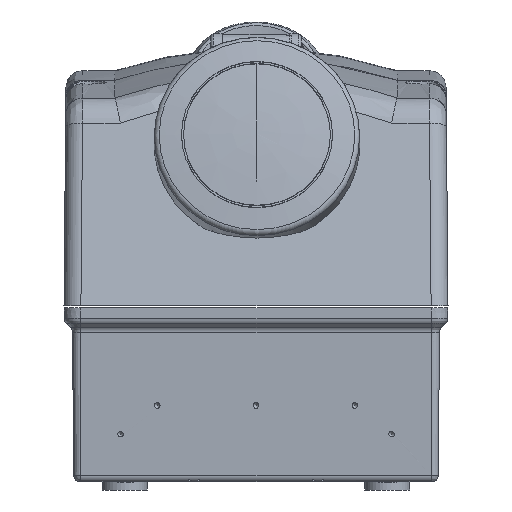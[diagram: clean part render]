
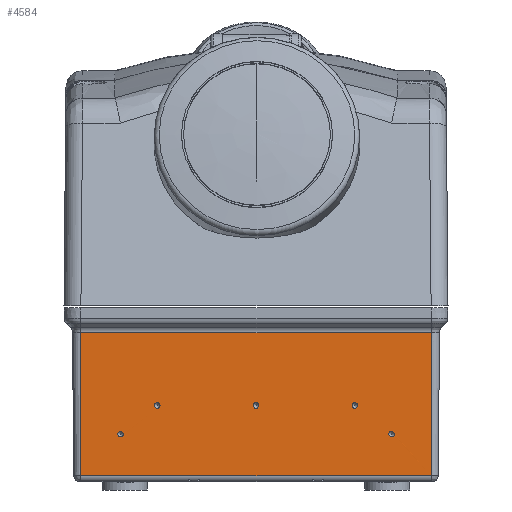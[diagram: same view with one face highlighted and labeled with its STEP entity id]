
A CAD part, front view. The second image highlights one B-rep face of the part: STEP entity #4584.
In plain terms, the highlighted planar face has unit normal (0, -1, -0.009).
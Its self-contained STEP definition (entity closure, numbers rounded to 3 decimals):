
#480=ELLIPSE('',#10440,0.977,0.977);
#481=ELLIPSE('',#10441,0.977,0.977);
#3065=PLANE('',#10442);
#3588=LINE('',#14422,#4095);
#3731=LINE('',#15132,#4238);
#3732=LINE('',#15134,#4239);
#3733=LINE('',#15136,#4240);
#4095=VECTOR('',#11457,1.);
#4238=VECTOR('',#11896,1.);
#4239=VECTOR('',#11897,1.);
#4240=VECTOR('',#11898,1.);
#4584=ADVANCED_FACE('',(#9012,#9013,#9014,#9015,#9016,#9017),#3065,.T.);
#4947=EDGE_LOOP('',(#6434));
#4948=EDGE_LOOP('',(#6435));
#4949=EDGE_LOOP('',(#6436));
#4950=EDGE_LOOP('',(#6437,#6438,#6439,#6440));
#4951=EDGE_LOOP('',(#6441));
#4952=EDGE_LOOP('',(#6442));
#5274=CIRCLE('',#10312,1.);
#5275=CIRCLE('',#10314,1.);
#5276=CIRCLE('',#10316,1.);
#6434=ORIENTED_EDGE('',*,*,#7810,.F.);
#6435=ORIENTED_EDGE('',*,*,#7811,.F.);
#6436=ORIENTED_EDGE('',*,*,#7812,.F.);
#6437=ORIENTED_EDGE('',*,*,#7784,.F.);
#6438=ORIENTED_EDGE('',*,*,#8028,.T.);
#6439=ORIENTED_EDGE('',*,*,#8029,.T.);
#6440=ORIENTED_EDGE('',*,*,#8030,.F.);
#6441=ORIENTED_EDGE('',*,*,#8031,.T.);
#6442=ORIENTED_EDGE('',*,*,#8032,.F.);
#7784=EDGE_CURVE('',#9361,#9358,#3588,.T.);
#7810=EDGE_CURVE('',#9381,#9381,#5274,.T.);
#7811=EDGE_CURVE('',#9383,#9383,#5275,.T.);
#7812=EDGE_CURVE('',#9385,#9385,#5276,.T.);
#8028=EDGE_CURVE('',#9361,#9562,#3731,.T.);
#8029=EDGE_CURVE('',#9562,#9563,#3732,.T.);
#8030=EDGE_CURVE('',#9358,#9563,#3733,.T.);
#8031=EDGE_CURVE('',#9564,#9564,#480,.T.);
#8032=EDGE_CURVE('',#9565,#9565,#481,.T.);
#9012=FACE_BOUND('',#4947,.T.);
#9013=FACE_BOUND('',#4948,.T.);
#9014=FACE_BOUND('',#4949,.T.);
#9015=FACE_BOUND('',#4950,.T.);
#9016=FACE_BOUND('',#4951,.T.);
#9017=FACE_BOUND('',#4952,.T.);
#9358=VERTEX_POINT('',#14401);
#9361=VERTEX_POINT('',#14421);
#9381=VERTEX_POINT('',#14536);
#9383=VERTEX_POINT('',#14540);
#9385=VERTEX_POINT('',#14544);
#9562=VERTEX_POINT('',#15133);
#9563=VERTEX_POINT('',#15135);
#9564=VERTEX_POINT('',#15138);
#9565=VERTEX_POINT('',#15140);
#10312=AXIS2_PLACEMENT_3D('',#14535,#11510,#11511);
#10314=AXIS2_PLACEMENT_3D('',#14539,#11514,#11515);
#10316=AXIS2_PLACEMENT_3D('',#14543,#11518,#11519);
#10440=AXIS2_PLACEMENT_3D('',#15137,#11899,#11900);
#10441=AXIS2_PLACEMENT_3D('',#15139,#11901,#11902);
#10442=AXIS2_PLACEMENT_3D('',#15141,#11903,#11904);
#11457=DIRECTION('',(0.,-0.009,1.));
#11510=DIRECTION('',(0.,-1.,-0.009));
#11511=DIRECTION('',(1.,0.,0.));
#11514=DIRECTION('',(0.,-1.,-0.009));
#11515=DIRECTION('',(1.,0.,0.));
#11518=DIRECTION('',(0.,-1.,-0.009));
#11519=DIRECTION('',(1.,0.,0.));
#11896=DIRECTION('',(1.,0.,0.));
#11897=DIRECTION('',(0.,-0.009,1.));
#11898=DIRECTION('',(1.,0.,0.));
#11899=DIRECTION('',(0.,1.,0.009));
#11900=DIRECTION('',(0.,-0.009,1.));
#11901=DIRECTION('',(0.,-1.,-0.009));
#11902=DIRECTION('',(0.,-0.009,1.));
#11903=DIRECTION('',(0.,-1.,-0.009));
#11904=DIRECTION('',(0.,-0.009,1.));
#14401=CARTESIAN_POINT('',(-9.,3.009,206.269));
#14421=CARTESIAN_POINT('',(-9.,3.452,155.483));
#14422=CARTESIAN_POINT('',(-9.,3.452,155.46));
#14535=CARTESIAN_POINT('',(88.,3.234,180.458));
#14536=CARTESIAN_POINT('',(89.,3.234,180.458));
#14539=CARTESIAN_POINT('',(18.,3.234,180.458));
#14540=CARTESIAN_POINT('',(19.,3.234,180.458));
#14543=CARTESIAN_POINT('',(53.,3.234,180.458));
#14544=CARTESIAN_POINT('',(54.,3.234,180.458));
#15132=CARTESIAN_POINT('',(115.,3.452,155.483));
#15133=CARTESIAN_POINT('',(115.,3.452,155.483));
#15134=CARTESIAN_POINT('',(115.,3.452,155.46));
#15135=CARTESIAN_POINT('',(115.,3.009,206.269));
#15136=CARTESIAN_POINT('',(53.,3.009,206.269));
#15137=CARTESIAN_POINT('',(5.,3.323,170.259));
#15138=CARTESIAN_POINT('',(5.,3.315,171.235));
#15139=CARTESIAN_POINT('',(101.,3.323,170.259));
#15140=CARTESIAN_POINT('',(101.,3.315,171.235));
#15141=CARTESIAN_POINT('',(53.,3.231,180.876));
